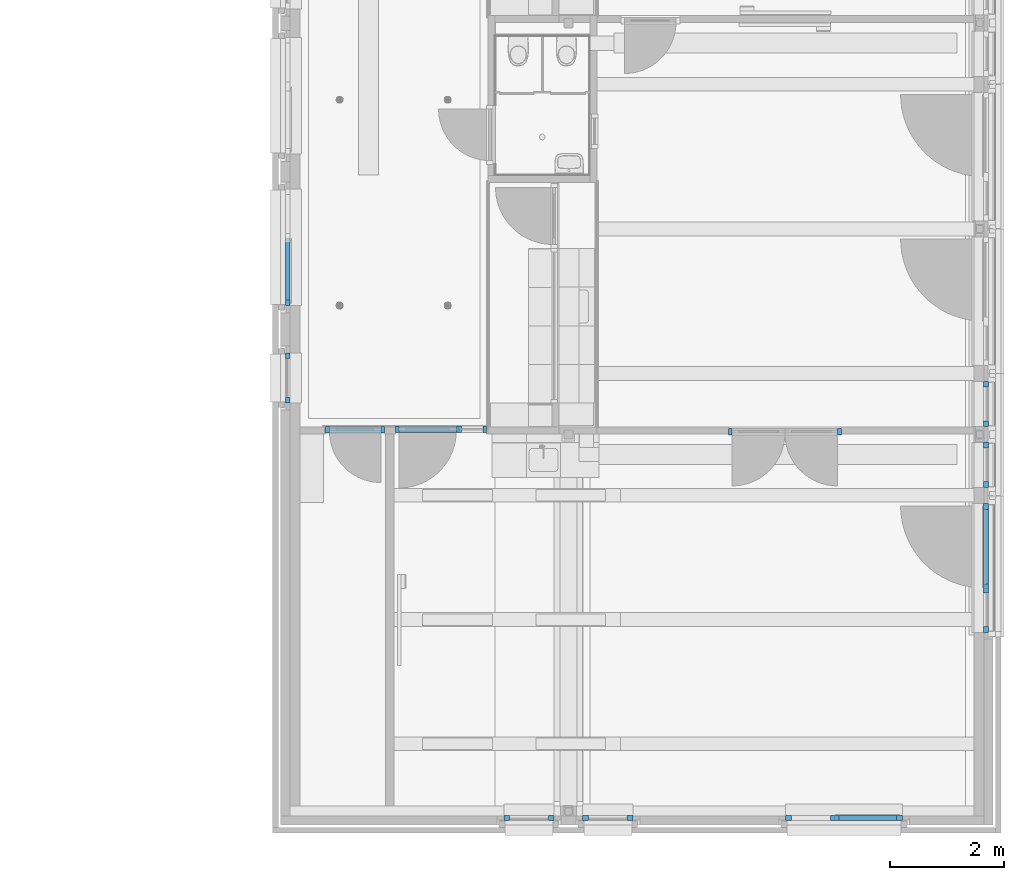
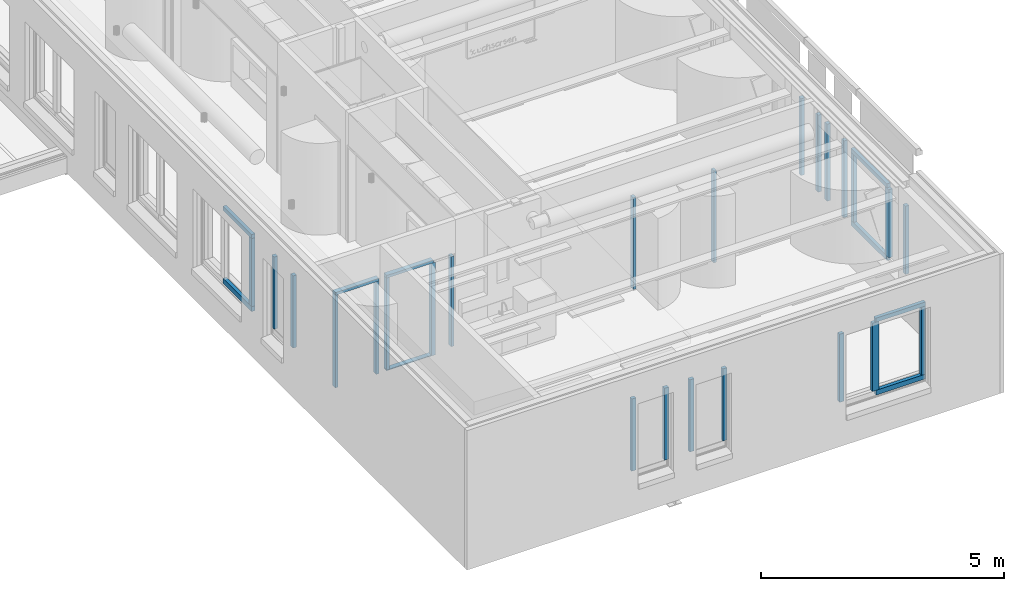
# One storey, part 6 of 128: 33 members, 11 elements without a shape of their own.
"""IFC2X3 building model written with IfcOpenShell, lengths in millimetres."""

from ifc_helpers import new_model, entity, si_unit, converted_unit, derived_unit, direction, frame, frame_2d, origin, origin_2d_with_axis, place, context, subcontext, project, spatial, rectangle, extrude, source, transform, mapped, material, type_object, type_shapes, element, aggregate, save


model = new_model("IFC2X3")

# Units and contexts
model_context = context("Model", 3, precision=0.01, world=origin(), true_north=direction((6.123031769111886e-17, 1.0)))
body_context = subcontext(model_context, "Body", "Model", "MODEL_VIEW")
ifc_project = project(units=[si_unit("LENGTHUNIT", "METRE", prefix="MILLI"), si_unit("AREAUNIT", "SQUARE_METRE"), si_unit("VOLUMEUNIT", "CUBIC_METRE"), converted_unit("PLANEANGLEUNIT", "DEGREE", entity("IfcRatioMeasure", 0.017453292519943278), si_unit("PLANEANGLEUNIT", "RADIAN"), dimensions=[0, 0, 0, 0, 0, 0, 0]), si_unit("MASSUNIT", "GRAM", prefix="KILO"), derived_unit("MASSDENSITYUNIT", [(si_unit("MASSUNIT", "GRAM", prefix="KILO"), 1), (si_unit("LENGTHUNIT", "METRE"), -3)]), derived_unit("IONCONCENTRATIONUNIT", [(si_unit("MASSUNIT", "GRAM", prefix="KILO"), 1), (si_unit("LENGTHUNIT", "METRE"), -3)]), derived_unit("MOMENTOFINERTIAUNIT", [(si_unit("LENGTHUNIT", "METRE"), 4)]), si_unit("TIMEUNIT", "SECOND"), si_unit("FREQUENCYUNIT", "HERTZ"), si_unit("THERMODYNAMICTEMPERATUREUNIT", "DEGREE_CELSIUS"), derived_unit("THERMALTRANSMITTANCEUNIT", [(si_unit("MASSUNIT", "GRAM", prefix="KILO"), 1), (si_unit("THERMODYNAMICTEMPERATUREUNIT", "KELVIN"), -1), (si_unit("TIMEUNIT", "SECOND"), -3)]), derived_unit("THERMALCONDUCTANCEUNIT", [(si_unit("MASSUNIT", "GRAM", prefix="KILO"), 1), (si_unit("THERMODYNAMICTEMPERATUREUNIT", "KELVIN"), -1), (si_unit("TIMEUNIT", "SECOND"), -3), (si_unit("LENGTHUNIT", "METRE"), 1)]), derived_unit("VOLUMETRICFLOWRATEUNIT", [(si_unit("LENGTHUNIT", "METRE"), 3), (si_unit("TIMEUNIT", "SECOND"), -1)]), derived_unit("MASSFLOWRATEUNIT", [(si_unit("MASSUNIT", "GRAM", prefix="KILO"), 1), (si_unit("TIMEUNIT", "SECOND"), -1)]), derived_unit("ROTATIONALFREQUENCYUNIT", [(si_unit("TIMEUNIT", "SECOND"), -1)]), si_unit("ELECTRICCURRENTUNIT", "AMPERE"), si_unit("ELECTRICVOLTAGEUNIT", "VOLT"), si_unit("POWERUNIT", "WATT"), si_unit("FORCEUNIT", "NEWTON", prefix="KILO"), si_unit("ILLUMINANCEUNIT", "LUX"), si_unit("LUMINOUSFLUXUNIT", "LUMEN"), si_unit("LUMINOUSINTENSITYUNIT", "CANDELA"), derived_unit("USERDEFINED", [(si_unit("MASSUNIT", "GRAM", prefix="KILO"), -1), (si_unit("LENGTHUNIT", "METRE"), -2), (si_unit("TIMEUNIT", "SECOND"), 3), (si_unit("LUMINOUSFLUXUNIT", "LUMEN"), 1)]), derived_unit("USERDEFINED", [(si_unit("MASSUNIT", "GRAM", prefix="KILO"), 1), (si_unit("TIMEUNIT", "SECOND"), -3), (si_unit("LENGTHUNIT", "METRE"), 3), (si_unit("ELECTRICCURRENTUNIT", "AMPERE"), -2)]), derived_unit("SOUNDPOWERUNIT", [(si_unit("MASSUNIT", "GRAM", prefix="KILO"), 1), (si_unit("TIMEUNIT", "SECOND"), -3), (si_unit("LENGTHUNIT", "METRE"), 2)]), derived_unit("SOUNDPRESSUREUNIT", [(si_unit("MASSUNIT", "GRAM", prefix="KILO"), 1), (si_unit("LENGTHUNIT", "METRE"), -1), (si_unit("TIMEUNIT", "SECOND"), -2)]), derived_unit("LINEARVELOCITYUNIT", [(si_unit("LENGTHUNIT", "METRE"), 1), (si_unit("TIMEUNIT", "SECOND"), -1)]), si_unit("PRESSUREUNIT", "PASCAL"), derived_unit("USERDEFINED", [(si_unit("MASSUNIT", "GRAM", prefix="KILO"), 1), (si_unit("LENGTHUNIT", "METRE"), -2), (si_unit("TIMEUNIT", "SECOND"), -2)]), derived_unit("LINEARFORCEUNIT", [(si_unit("MASSUNIT", "GRAM", prefix="KILO"), 1), (si_unit("TIMEUNIT", "SECOND"), -2)]), derived_unit("PLANARFORCEUNIT", [(si_unit("MASSUNIT", "GRAM", prefix="KILO"), 1), (si_unit("LENGTHUNIT", "METRE"), -1), (si_unit("TIMEUNIT", "SECOND"), -2)]), derived_unit("SPECIFICHEATCAPACITYUNIT", [(si_unit("THERMODYNAMICTEMPERATUREUNIT", "KELVIN"), -1), (si_unit("LENGTHUNIT", "METRE"), 2), (si_unit("TIMEUNIT", "SECOND"), -2)]), derived_unit("HEATINGVALUEUNIT", [(si_unit("LENGTHUNIT", "METRE"), 2), (si_unit("TIMEUNIT", "SECOND"), -2)]), derived_unit("VAPORPERMEABILITYUNIT", [(si_unit("LENGTHUNIT", "METRE"), -1), (si_unit("TIMEUNIT", "SECOND"), 1)]), derived_unit("DYNAMICVISCOSITYUNIT", [(si_unit("MASSUNIT", "GRAM", prefix="KILO"), 1), (si_unit("TIMEUNIT", "SECOND"), -1), (si_unit("LENGTHUNIT", "METRE"), -1)]), derived_unit("THERMALEXPANSIONCOEFFICIENTUNIT", [(si_unit("THERMODYNAMICTEMPERATUREUNIT", "KELVIN"), -1)]), derived_unit("MODULUSOFELASTICITYUNIT", [(si_unit("MASSUNIT", "GRAM", prefix="KILO"), 1), (si_unit("LENGTHUNIT", "METRE"), -1), (si_unit("TIMEUNIT", "SECOND"), -2)]), derived_unit("ISOTHERMALMOISTURECAPACITYUNIT", [(si_unit("LENGTHUNIT", "METRE"), 3), (si_unit("MASSUNIT", "GRAM", prefix="KILO"), -1)]), derived_unit("MOISTUREDIFFUSIVITYUNIT", [(si_unit("TIMEUNIT", "SECOND"), -1), (si_unit("LENGTHUNIT", "METRE"), 2)])], contexts=[model_context])

# Site, building, storey
site_placement = place(None, frame((0.0, 300.0, 0.0)))
site = spatial("IfcSite", under=ifc_project, at=site_placement, Name="<Kadastrale nummers>", CompositionType="ELEMENT")
building_placement = place(site_placement, origin())
building = spatial("IfcBuilding", under=site, at=building_placement, CompositionType="ELEMENT")
storey_placement = place(building_placement, frame((0.0, 0.0, 3560.0000331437)))
storey = spatial("IfcBuildingStorey", under=building, at=storey_placement, Name="01 eerste verdieping", CompositionType="ELEMENT", Elevation=3560.0000331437)

# Curtain wall, members
curtain_wall_type_1 = type_object("IfcCurtainWallType", Name="Curtain Wall:Merk H16", PredefinedType="NOTDEFINED")
curtain_wall_1_placement = place(storey_placement, frame((0.0, 0.0, -3560.0000331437)))
curtain_wall_1 = element("IfcCurtainWall", 1, at=curtain_wall_1_placement, inside=storey, type_object=curtain_wall_type_1, Name="Curtain Wall:Merk H16", ObjectType="Curtain Wall:Merk H16")
ifc_material_1 = material(Name="ISR_HPL")
member_type_1 = type_object("IfcMemberType", Name="Rectangular Mullion:31_CWM_067x114", PredefinedType="MULLION", material=ifc_material_1)
shared_shape_1 = source(origin(), body_context, "Body", "SweptSolid", [
    extrude(rectangle(XDim=113.99999999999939, YDim=67.0, at=origin_2d_with_axis()), frame((-33.5, 57.0, -2323.0), z_axis=(0.0, 0.0, 1.0), x_axis=(0.0, -1.0, 0.0)), (0.0, 0.0, 1.0), 2323.0),
])
type_shapes(member_type_1, [shared_shape_1])
member_1_placement = place(curtain_wall_1_placement, frame((38185.0, 9444.99862327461, 3650.00003501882), z_axis=(0.0, 0.0, -1.0), x_axis=(1.0, 0.0, 0.0)))
member_1 = element("IfcMember", 2, at=member_1_placement, type_object=member_type_1, material=ifc_material_1, Name="Rectangular Mullion:31_CWM_067x114", ObjectType="Rectangular Mullion:31_CWM_067x114", context=body_context, shape_type="MappedRepresentation", body=[
    mapped(shared_shape_1, transform((0.0, 0.0, 0.0), scale=1.0)),
])
member_type_2 = type_object("IfcMemberType", Name="Rectangular Mullion:31_CWM_067x114", PredefinedType="MULLION", material=ifc_material_1)
shared_shape_2 = source(origin(), body_context, "Body", "SweptSolid", [
    extrude(rectangle(XDim=113.99999999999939, YDim=67.0, at=origin_2d_with_axis()), frame((-33.5, 57.0, -2323.0), z_axis=(0.0, 0.0, 1.0), x_axis=(0.0, -1.0, 0.0)), (0.0, 0.0, 1.0), 2323.0),
])
type_shapes(member_type_2, [shared_shape_2])
member_2_placement = place(curtain_wall_1_placement, frame((37151.0, 9444.99862327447, 5973.0000331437), z_axis=(0.0, 0.0, 1.0), x_axis=(-1.0, 0.0, 0.0)))
member_2 = element("IfcMember", 3, at=member_2_placement, type_object=member_type_2, material=ifc_material_1, Name="Rectangular Mullion:31_CWM_067x114", ObjectType="Rectangular Mullion:31_CWM_067x114", context=body_context, shape_type="MappedRepresentation", body=[
    mapped(shared_shape_2, transform((0.0, 0.0, 0.0), scale=1.0)),
])
member_type_3 = type_object("IfcMemberType", Name="Rectangular Mullion:31_CWM_067x114", PredefinedType="MULLION", material=ifc_material_1)
shared_shape_3 = source(origin(), body_context, "Body", "SweptSolid", [
    extrude(rectangle(XDim=113.99999999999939, YDim=67.0, at=origin_2d_with_axis()), frame((-33.5, 57.0, -1034.0), z_axis=(0.0, 0.0, 1.0), x_axis=(0.0, -1.0, 0.0)), (0.0, 0.0, 1.0), 1033.9999999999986),
])
type_shapes(member_type_3, [shared_shape_3])
member_3_placement = place(curtain_wall_1_placement, frame((38185.0, 9444.99862327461, 6040.0000331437), z_axis=(1.0, 0.0, 0.0), x_axis=(0.0, 0.0, 1.0)))
member_3 = element("IfcMember", 4, at=member_3_placement, type_object=member_type_3, material=ifc_material_1, Name="Rectangular Mullion:31_CWM_067x114", ObjectType="Rectangular Mullion:31_CWM_067x114", context=body_context, shape_type="MappedRepresentation", body=[
    mapped(shared_shape_3, transform((0.0, 0.0, 0.0), scale=1.0)),
])
aggregate(curtain_wall_1, [member_3, member_1, member_2])

curtain_wall_type_2 = type_object("IfcCurtainWallType", Name="Curtain Wall:Merk H18", PredefinedType="NOTDEFINED")
curtain_wall_2_placement = place(storey_placement, frame((0.0, 0.0, -3560.0000331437)))
curtain_wall_2 = element("IfcCurtainWall", 5, at=curtain_wall_2_placement, inside=storey, type_object=curtain_wall_type_2, Name="Curtain Wall:Merk H18", ObjectType="Curtain Wall:Merk H18")
member_type_4 = type_object("IfcMemberType", Name="Rectangular Mullion:31_CWM_067x114", PredefinedType="MULLION", material=ifc_material_1)
shared_shape_4 = source(origin(), body_context, "Body", "SweptSolid", [
    extrude(rectangle(XDim=113.99999999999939, YDim=67.0, at=origin_2d_with_axis()), frame((-33.5, -57.0, -1112.0), z_axis=(0.0, 0.0, 1.0), x_axis=(0.0, -1.0, 0.0)), (0.0, 0.0, 1.0), 1112.0000000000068),
])
type_shapes(member_type_4, [shared_shape_4])
member_4_placement = place(curtain_wall_2_placement, frame((38371.24999999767, 9449.9986232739, 6040.0000331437), z_axis=(-1.0, 0.0, 0.0), x_axis=(0.0, 0.0, 1.0)))
member_4 = element("IfcMember", 6, at=member_4_placement, type_object=member_type_4, material=ifc_material_1, Name="Rectangular Mullion:31_CWM_067x114", ObjectType="Rectangular Mullion:31_CWM_067x114", context=body_context, shape_type="MappedRepresentation", body=[
    mapped(shared_shape_4, transform((0.0, 0.0, 0.0), scale=1.0)),
])
member_type_5 = type_object("IfcMemberType", Name="Rectangular Mullion:31_CWM_067x114", PredefinedType="MULLION", material=ifc_material_1)
shared_shape_5 = source(origin(), body_context, "Body", "SweptSolid", [
    extrude(rectangle(XDim=113.9999999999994, YDim=67.0, at=frame_2d((1.0658141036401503e-14, 0.0), x_axis=(1.0, 0.0))), frame((-33.5, -57.0, -2303.0), z_axis=(0.0, 0.0, 1.0), x_axis=(0.0, -1.0, 0.0)), (0.0, 0.0, 1.0), 2303.0),
])
type_shapes(member_type_5, [shared_shape_5])
member_5_placement = place(curtain_wall_2_placement, frame((38371.24999999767, 9449.9986232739, 3670.000035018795), z_axis=(0.0, 0.0, -1.0), x_axis=(-1.0, 0.0, 0.0)))
member_5 = element("IfcMember", 7, at=member_5_placement, type_object=member_type_5, material=ifc_material_1, Name="Rectangular Mullion:31_CWM_067x114", ObjectType="Rectangular Mullion:31_CWM_067x114", context=body_context, shape_type="MappedRepresentation", body=[
    mapped(shared_shape_5, transform((0.0, 0.0, 0.0), scale=1.0)),
])
ifc_material_2 = material(Name="ISR_Kunststof_grijs")
member_type_6 = type_object("IfcMemberType", Name="Rectangular Mullion:31_CWM_020x114", PredefinedType="MULLION", material=ifc_material_2)
shared_shape_6 = source(origin(), body_context, "Body", "SweptSolid", [
    extrude(rectangle(XDim=113.99999999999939, YDim=20.0, at=origin_2d_with_axis()), frame((-10.0, -57.0, -1067.0), z_axis=(0.0, 0.0, 1.0), x_axis=(0.0, -1.0, 0.0)), (0.0, 0.0, 1.0), 1067.0000000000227),
])
type_shapes(member_type_6, [shared_shape_6])
member_6_placement = place(curtain_wall_2_placement, frame((39438.24999999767, 9449.998623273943, 3650.0000350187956), z_axis=(1.0, 0.0, 0.0), x_axis=(0.0, 0.0, -1.0)))
member_6 = element("IfcMember", 8, at=member_6_placement, type_object=member_type_6, material=ifc_material_2, Name="Rectangular Mullion:31_CWM_020x114", ObjectType="Rectangular Mullion:31_CWM_020x114", context=body_context, shape_type="MappedRepresentation", body=[
    mapped(shared_shape_6, transform((0.0, 0.0, 0.0), scale=1.0)),
])
ifc_material_3 = material(Name="ISR_HPL Kleur hout")
member_type_7 = type_object("IfcMemberType", Name="Rectangular Mullion:31_CWM_090x114", PredefinedType="MULLION", material=ifc_material_3)
shared_shape_7 = source(origin(), body_context, "Body", "SweptSolid", [
    extrude(rectangle(XDim=113.99999999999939, YDim=90.0, at=origin_2d_with_axis()), frame((0.0, -57.0, -2323.0), z_axis=(0.0, 0.0, 1.0), x_axis=(0.0, -1.0, 0.0)), (0.0, 0.0, 1.0), 2323.0000000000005),
])
type_shapes(member_type_7, [shared_shape_7])
member_7_placement = place(curtain_wall_2_placement, frame((39483.24999999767, 9449.998623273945, 3650.0000350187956), z_axis=(0.0, 0.0, -1.0), x_axis=(-1.0, 0.0, 0.0)))
member_7 = element("IfcMember", 9, at=member_7_placement, type_object=member_type_7, material=ifc_material_3, Name="Rectangular Mullion:31_CWM_090x114", ObjectType="Rectangular Mullion:31_CWM_090x114", context=body_context, shape_type="MappedRepresentation", body=[
    mapped(shared_shape_7, transform((0.0, 0.0, 0.0), scale=1.0)),
])

curtain_wall_type_3 = type_object("IfcCurtainWallType", Name="Curtain Wall:Merk H07", PredefinedType="NOTDEFINED")
curtain_wall_3_placement = place(storey_placement, frame((0.0, 0.0, -3560.0000331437)))
curtain_wall_3 = element("IfcCurtainWall", 10, at=curtain_wall_3_placement, inside=storey, type_object=curtain_wall_type_3, Name="Curtain Wall:Merk H07", ObjectType="Curtain Wall:Merk H07")
member_type_8 = type_object("IfcMemberType", Name="Rectangular Mullion:31_CWM_067x114", PredefinedType="MULLION", material=ifc_material_1)
shared_shape_8 = source(origin(), body_context, "Body", "SweptSolid", [
    extrude(rectangle(XDim=113.99999999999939, YDim=67.0, at=origin_2d_with_axis()), frame((-33.5, 57.0, -2303.0), z_axis=(0.0, 0.0, 1.0), x_axis=(0.0, -1.0, 0.0)), (0.0, 0.0, 1.0), 2303.0),
])
type_shapes(member_type_8, [shared_shape_8])
member_8_placement = place(curtain_wall_3_placement, frame((46180.0, 9408.99862327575, 3670.0000350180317), z_axis=(0.0, 0.0, -1.0), x_axis=(1.0, 0.0, 0.0)))
member_8 = element("IfcMember", 11, at=member_8_placement, type_object=member_type_8, material=ifc_material_1, Name="Rectangular Mullion:31_CWM_067x114", ObjectType="Rectangular Mullion:31_CWM_067x114", context=body_context, shape_type="MappedRepresentation", body=[
    mapped(shared_shape_8, transform((0.0, 0.0, 0.0), scale=1.0)),
])
member_type_9 = type_object("IfcMemberType", Name="Rectangular Mullion:31_CWM_067x114", PredefinedType="MULLION", material=ifc_material_1)
shared_shape_9 = source(origin(), body_context, "Body", "SweptSolid", [
    extrude(rectangle(XDim=113.99999999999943, YDim=67.0, at=origin_2d_with_axis()), frame((-33.5, 57.0, -2303.0), z_axis=(0.0, 0.0, 1.0), x_axis=(0.0, -1.0, 0.0)), (0.0, 0.0, 1.0), 2303.0000000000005),
])
type_shapes(member_type_9, [shared_shape_9])
member_9_placement = place(curtain_wall_3_placement, frame((44200.0, 9408.998623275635, 5973.0000331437), z_axis=(0.0, 0.0, 1.0), x_axis=(-1.0, 0.0, 0.0)))
member_9 = element("IfcMember", 12, at=member_9_placement, type_object=member_type_9, material=ifc_material_1, Name="Rectangular Mullion:31_CWM_067x114", ObjectType="Rectangular Mullion:31_CWM_067x114", context=body_context, shape_type="MappedRepresentation", body=[
    mapped(shared_shape_9, transform((0.0, 0.0, 0.0), scale=1.0)),
])
aggregate(curtain_wall_3, [member_8, member_9])

# Member
member_type_10 = type_object("IfcMemberType", Name="Rectangular Mullion:31_CWM_067x114", PredefinedType="MULLION", material=ifc_material_1)
shared_shape_10 = source(origin(), body_context, "Body", "SweptSolid", [
    extrude(rectangle(XDim=113.99999999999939, YDim=67.0, at=origin_2d_with_axis()), frame((-33.5, -57.0, -2256.0), z_axis=(0.0, 0.0, 1.0), x_axis=(0.0, -1.0, 0.0)), (0.0, 0.0, 1.0), 2256.0000000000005),
])
type_shapes(member_type_10, [shared_shape_10])
member_10_placement = place(curtain_wall_2_placement, frame((39971.249999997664, 9449.998623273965, 5973.0000331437)))
member_10 = element("IfcMember", 13, at=member_10_placement, type_object=member_type_10, material=ifc_material_1, Name="Rectangular Mullion:31_CWM_067x114", ObjectType="Rectangular Mullion:31_CWM_067x114", context=body_context, shape_type="MappedRepresentation", body=[
    mapped(shared_shape_10, transform((0.0, 0.0, 0.0), scale=1.0)),
])

aggregate(curtain_wall_2, [member_4, member_5, member_10, member_6, member_7])

# Curtain wall, member
curtain_wall_type_4 = type_object("IfcCurtainWallType", Name="Curtain Wall:K_28", PredefinedType="NOTDEFINED")
curtain_wall_4_placement = place(storey_placement, frame((0.0, 0.0, -3560.0000331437)))
curtain_wall_4 = element("IfcCurtainWall", 14, at=curtain_wall_4_placement, inside=storey, type_object=curtain_wall_type_4, Name="Curtain Wall:K_28", ObjectType="Curtain Wall:K_28")
ifc_material_4 = material(Name="ISR_Kunststof_RAL7006")
member_type_11 = type_object("IfcMemberType", Name="Rectangular Mullion:100x83 Gealan Kubus", PredefinedType="MULLION", material=ifc_material_4)
shared_shape_11 = source(origin(), body_context, "Body", "SweptSolid", [
    extrude(rectangle(XDim=83.0, YDim=100.0, at=origin_2d_with_axis()), frame((-50.0, 41.5, -1810.0), z_axis=(0.0, 0.0, 1.0), x_axis=(0.0, -1.0, 0.0)), (0.0, 0.0, 1.0), 1810.0),
])
type_shapes(member_type_11, [shared_shape_11])
member_11_placement = place(curtain_wall_4_placement, frame((36532.0, 9850.0, 4580.000035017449), z_axis=(0.0, 0.0, -1.0), x_axis=(0.0, -1.0, 0.0)))
member_11 = element("IfcMember", 15, at=member_11_placement, type_object=member_type_11, material=ifc_material_4, Name="Rectangular Mullion:100x83 Gealan Kubus", ObjectType="Rectangular Mullion:100x83 Gealan Kubus", context=body_context, shape_type="MappedRepresentation", body=[
    mapped(shared_shape_11, transform((0.0, 0.0, 0.0), scale=1.0)),
])

curtain_wall_5_placement = place(storey_placement, frame((0.0, 0.0, -3560.0000331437)))
curtain_wall_5 = element("IfcCurtainWall", 16, at=curtain_wall_5_placement, inside=storey, type_object=curtain_wall_type_4, Name="Curtain Wall:K_28", ObjectType="Curtain Wall:K_28")
member_12_placement = place(curtain_wall_5_placement, frame((41150.0, 2631.99862327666, 4580.000035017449), z_axis=(0.0, 0.0, -1.0), x_axis=(1.0, 0.0, 0.0)))
member_12 = element("IfcMember", 17, at=member_12_placement, type_object=member_type_11, material=ifc_material_4, Name="Rectangular Mullion:100x83 Gealan Kubus", ObjectType="Rectangular Mullion:100x83 Gealan Kubus", context=body_context, shape_type="MappedRepresentation", body=[
    mapped(shared_shape_11, transform((0.0, 0.0, 0.0), scale=1.0)),
])

curtain_wall_6_placement = place(storey_placement, frame((0.0, 0.0, -3560.0000331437)))
curtain_wall_6 = element("IfcCurtainWall", 18, at=curtain_wall_6_placement, inside=storey, type_object=curtain_wall_type_4, Name="Curtain Wall:K_28", ObjectType="Curtain Wall:K_28")
member_13_placement = place(curtain_wall_6_placement, frame((42530.0, 2631.998623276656, 4580.000035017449), z_axis=(0.0, 0.0, -1.0), x_axis=(1.0, 0.0, 0.0)))
member_13 = element("IfcMember", 19, at=member_13_placement, type_object=member_type_11, material=ifc_material_4, Name="Rectangular Mullion:100x83 Gealan Kubus", ObjectType="Rectangular Mullion:100x83 Gealan Kubus", context=body_context, shape_type="MappedRepresentation", body=[
    mapped(shared_shape_11, transform((0.0, 0.0, 0.0), scale=1.0)),
])

# Member
member_type_12 = type_object("IfcMemberType", Name="Rectangular Mullion:100x83 Gealan Kubus", PredefinedType="MULLION", material=ifc_material_4)
shared_shape_12 = source(origin(), body_context, "Body", "SweptSolid", [
    extrude(rectangle(XDim=83.0, YDim=100.0, at=origin_2d_with_axis()), frame((-50.0, 41.5, -1810.0), z_axis=(0.0, 0.0, 1.0), x_axis=(0.0, -1.0, 0.0)), (0.0, 0.0, 1.0), 1810.0),
])
type_shapes(member_type_12, [shared_shape_12])
member_14_placement = place(curtain_wall_4_placement, frame((36532.0, 10730.0, 6390.00003501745), z_axis=(0.0, 0.0, 1.0), x_axis=(0.0, 1.0, 0.0)))
member_14 = element("IfcMember", 20, at=member_14_placement, type_object=member_type_12, material=ifc_material_4, Name="Rectangular Mullion:100x83 Gealan Kubus", ObjectType="Rectangular Mullion:100x83 Gealan Kubus", context=body_context, shape_type="MappedRepresentation", body=[
    mapped(shared_shape_12, transform((0.0, 0.0, 0.0), scale=1.0)),
])

aggregate(curtain_wall_4, [member_11, member_14])

member_15_placement = place(curtain_wall_5_placement, frame((40270.0, 2631.9986232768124, 6390.00003501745), z_axis=(0.0, 0.0, 1.0), x_axis=(-1.0, 0.0, 0.0)))
member_15 = element("IfcMember", 21, at=member_15_placement, type_object=member_type_12, material=ifc_material_4, Name="Rectangular Mullion:100x83 Gealan Kubus", ObjectType="Rectangular Mullion:100x83 Gealan Kubus", context=body_context, shape_type="MappedRepresentation", body=[
    mapped(shared_shape_12, transform((0.0, 0.0, 0.0), scale=1.0)),
])

aggregate(curtain_wall_5, [member_12, member_15])

member_16_placement = place(curtain_wall_6_placement, frame((41650.0, 2631.998623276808, 6390.00003501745), z_axis=(0.0, 0.0, 1.0), x_axis=(-1.0, 0.0, 0.0)))
member_16 = element("IfcMember", 22, at=member_16_placement, type_object=member_type_12, material=ifc_material_4, Name="Rectangular Mullion:100x83 Gealan Kubus", ObjectType="Rectangular Mullion:100x83 Gealan Kubus", context=body_context, shape_type="MappedRepresentation", body=[
    mapped(shared_shape_12, transform((0.0, 0.0, 0.0), scale=1.0)),
])

aggregate(curtain_wall_6, [member_13, member_16])

# Curtain wall, member
curtain_wall_type_5 = type_object("IfcCurtainWallType", Name="Curtain Wall:K_29", PredefinedType="NOTDEFINED")
curtain_wall_7_placement = place(storey_placement, frame((0.0, 0.0, -3560.0000331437)))
curtain_wall_7 = element("IfcCurtainWall", 23, at=curtain_wall_7_placement, inside=storey, type_object=curtain_wall_type_5, Name="Curtain Wall:K_29", ObjectType="Curtain Wall:K_29")
member_type_13 = type_object("IfcMemberType", Name="Rectangular Mullion:100x83 Gealan Kubus", PredefinedType="MULLION", material=ifc_material_4)
shared_shape_13 = source(origin(), body_context, "Body", "SweptSolid", [
    extrude(rectangle(XDim=83.0, YDim=100.0, at=origin_2d_with_axis()), frame((-50.0, 41.5, -1929.9999649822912), z_axis=(0.0, 0.0, 1.0), x_axis=(0.0, -1.0, 0.0)), (0.0, 0.0, 1.0), 1929.9999649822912),
])
type_shapes(member_type_13, [shared_shape_13])
member_17_placement = place(curtain_wall_7_placement, frame((48668.0, 10230.0, 4460.000035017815), z_axis=(0.0, 0.0, -1.0), x_axis=(0.0, 1.0, 0.0)))
member_17 = element("IfcMember", 24, at=member_17_placement, type_object=member_type_13, material=ifc_material_4, Name="Rectangular Mullion:100x83 Gealan Kubus", ObjectType="Rectangular Mullion:100x83 Gealan Kubus", context=body_context, shape_type="MappedRepresentation", body=[
    mapped(shared_shape_13, transform((0.0, 0.0, 0.0), scale=1.0)),
])

curtain_wall_8_placement = place(storey_placement, frame((0.0, 0.0, -3560.0000331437)))
curtain_wall_8 = element("IfcCurtainWall", 25, at=curtain_wall_8_placement, inside=storey, type_object=curtain_wall_type_5, Name="Curtain Wall:K_29", ObjectType="Curtain Wall:K_29")
member_18_placement = place(curtain_wall_8_placement, frame((48668.0, 9168.0, 4460.000035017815), z_axis=(0.0, 0.0, -1.0), x_axis=(0.0, 1.0, 0.0)))
member_18 = element("IfcMember", 26, at=member_18_placement, type_object=member_type_13, material=ifc_material_4, Name="Rectangular Mullion:100x83 Gealan Kubus", ObjectType="Rectangular Mullion:100x83 Gealan Kubus", context=body_context, shape_type="MappedRepresentation", body=[
    mapped(shared_shape_13, transform((0.0, 0.0, 0.0), scale=1.0)),
])

# Member
member_type_14 = type_object("IfcMemberType", Name="Rectangular Mullion:100x83 Gealan Kubus", PredefinedType="MULLION", material=ifc_material_4)
shared_shape_14 = source(origin(), body_context, "Body", "SweptSolid", [
    extrude(rectangle(XDim=83.0, YDim=100.0, at=origin_2d_with_axis()), frame((-50.0, 41.5, -1929.9999649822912), z_axis=(0.0, 0.0, 1.0), x_axis=(0.0, -1.0, 0.0)), (0.0, 0.0, 1.0), 1929.9999649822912),
])
type_shapes(member_type_14, [shared_shape_14])
member_19_placement = place(curtain_wall_7_placement, frame((48668.0, 9440.0, 6390.0), z_axis=(0.0, 0.0, 1.0), x_axis=(0.0, -1.0, 0.0)))
member_19 = element("IfcMember", 27, at=member_19_placement, type_object=member_type_14, material=ifc_material_4, Name="Rectangular Mullion:100x83 Gealan Kubus", ObjectType="Rectangular Mullion:100x83 Gealan Kubus", context=body_context, shape_type="MappedRepresentation", body=[
    mapped(shared_shape_14, transform((0.0, 0.0, 0.0), scale=1.0)),
])

aggregate(curtain_wall_7, [member_17, member_19])

member_20_placement = place(curtain_wall_8_placement, frame((48668.0, 8378.0, 6390.0), z_axis=(0.0, 0.0, 1.0), x_axis=(0.0, -1.0, 0.0)))
member_20 = element("IfcMember", 28, at=member_20_placement, type_object=member_type_14, material=ifc_material_4, Name="Rectangular Mullion:100x83 Gealan Kubus", ObjectType="Rectangular Mullion:100x83 Gealan Kubus", context=body_context, shape_type="MappedRepresentation", body=[
    mapped(shared_shape_14, transform((0.0, 0.0, 0.0), scale=1.0)),
])

aggregate(curtain_wall_8, [member_18, member_20])

# Curtain wall, members
curtain_wall_type_6 = type_object("IfcCurtainWallType", Name="Curtain Wall:K_22", PredefinedType="NOTDEFINED")
curtain_wall_9_placement = place(storey_placement, frame((0.0, 0.0, -3560.0000331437)))
curtain_wall_9 = element("IfcCurtainWall", 29, at=curtain_wall_9_placement, inside=storey, type_object=curtain_wall_type_6, Name="Curtain Wall:K_22", ObjectType="Curtain Wall:K_22")
member_type_15 = type_object("IfcMemberType", Name="Rectangular Mullion:100x83 Gealan Kubus", PredefinedType="MULLION", material=ifc_material_4)
shared_shape_15 = source(origin(), body_context, "Body", "SweptSolid", [
    extrude(rectangle(XDim=83.0, YDim=100.0, at=origin_2d_with_axis()), frame((-50.0, 41.5, -1483.0), z_axis=(0.0, 0.0, 1.0), x_axis=(0.0, -1.0, 0.0)), (0.0, 0.0, 1.0), 1483.0000000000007),
])
type_shapes(member_type_15, [shared_shape_15])
member_21_placement = place(curtain_wall_9_placement, frame((48668.0, 8090.0, 6390.0), z_axis=(0.0, 1.0, 0.0), x_axis=(0.0, 0.0, 1.0)))
member_21 = element("IfcMember", 30, at=member_21_placement, type_object=member_type_15, material=ifc_material_4, Name="Rectangular Mullion:100x83 Gealan Kubus", ObjectType="Rectangular Mullion:100x83 Gealan Kubus", context=body_context, shape_type="MappedRepresentation", body=[
    mapped(shared_shape_15, transform((0.0, 0.0, 0.0), scale=1.0)),
])
member_type_16 = type_object("IfcMemberType", Name="Rectangular Mullion:100x83 Gealan Kubus", PredefinedType="MULLION", material=ifc_material_4)
shared_shape_16 = source(origin(), body_context, "Body", "SweptSolid", [
    extrude(rectangle(XDim=82.99999999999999, YDim=100.0, at=origin_2d_with_axis()), frame((-50.0, 41.49999999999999, -1709.9999649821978), z_axis=(0.0, 0.0, 1.0), x_axis=(0.0, -1.0, 0.0)), (0.0, 0.0, 1.0), 1709.9999649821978),
])
type_shapes(member_type_16, [shared_shape_16])
member_22_placement = place(curtain_wall_9_placement, frame((48668.0, 8090.0, 4580.0000331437), z_axis=(0.0, 0.0, -1.0), x_axis=(0.0, 1.0, 0.0)))
member_22 = element("IfcMember", 31, at=member_22_placement, type_object=member_type_16, material=ifc_material_4, Name="Rectangular Mullion:100x83 Gealan Kubus", ObjectType="Rectangular Mullion:100x83 Gealan Kubus", context=body_context, shape_type="MappedRepresentation", body=[
    mapped(shared_shape_16, transform((0.0, 0.0, 0.0), scale=1.0)),
])

# Curtain wall, member
curtain_wall_type_7 = type_object("IfcCurtainWallType", Name="Curtain Wall:K_24", PredefinedType="NOTDEFINED")
curtain_wall_10_placement = place(storey_placement, frame((0.0, 0.0, -3560.0000331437)))
curtain_wall_10 = element("IfcCurtainWall", 32, at=curtain_wall_10_placement, inside=storey, type_object=curtain_wall_type_7, Name="Curtain Wall:K_24", ObjectType="Curtain Wall:K_24")
member_23_placement = place(curtain_wall_10_placement, frame((36531.998623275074, 11560.0, 4580.000035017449), z_axis=(0.0, 0.0, -1.0), x_axis=(0.0, -1.0, 0.0)))
member_23 = element("IfcMember", 33, at=member_23_placement, type_object=member_type_16, material=ifc_material_4, Name="Rectangular Mullion:100x83 Gealan Kubus", ObjectType="Rectangular Mullion:100x83 Gealan Kubus", context=body_context, shape_type="MappedRepresentation", body=[
    mapped(shared_shape_16, transform((0.0, 0.0, 0.0), scale=1.0)),
])

curtain_wall_11_placement = place(storey_placement, frame((0.0, 0.0, -3560.0000331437)))
curtain_wall_11 = element("IfcCurtainWall", 34, at=curtain_wall_11_placement, inside=storey, type_object=curtain_wall_type_7, Name="Curtain Wall:K_24", ObjectType="Curtain Wall:K_24")
member_24_placement = place(curtain_wall_11_placement, frame((47245.0, 2631.9986232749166, 4580.000035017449), z_axis=(0.0, 0.0, -1.0), x_axis=(1.0, 0.0, 0.0)))
member_24 = element("IfcMember", 35, at=member_24_placement, type_object=member_type_16, material=ifc_material_4, Name="Rectangular Mullion:100x83 Gealan Kubus", ObjectType="Rectangular Mullion:100x83 Gealan Kubus", context=body_context, shape_type="MappedRepresentation", body=[
    mapped(shared_shape_16, transform((0.0, 0.0, 0.0), scale=1.0)),
])

# Member
member_type_17 = type_object("IfcMemberType", Name="Rectangular Mullion:100x83 Gealan Kubus", PredefinedType="MULLION", material=ifc_material_4)
shared_shape_17 = source(origin(), body_context, "Body", "SweptSolid", [
    extrude(rectangle(XDim=83.00000000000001, YDim=100.0, at=origin_2d_with_axis()), frame((-50.0, 41.50000000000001, -1709.9999649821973), z_axis=(0.0, 0.0, 1.0), x_axis=(0.0, -1.0, 0.0)), (0.0, 0.0, 1.0), 1709.9999649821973),
])
type_shapes(member_type_17, [shared_shape_17])
member_25_placement = place(curtain_wall_9_placement, frame((48668.0, 5840.0, 6290.0), z_axis=(0.0, 0.0, 1.0), x_axis=(0.0, -1.0, 0.0)))
member_25 = element("IfcMember", 36, at=member_25_placement, type_object=member_type_17, material=ifc_material_4, Name="Rectangular Mullion:100x83 Gealan Kubus", ObjectType="Rectangular Mullion:100x83 Gealan Kubus", context=body_context, shape_type="MappedRepresentation", body=[
    mapped(shared_shape_17, transform((0.0, 0.0, 0.0), scale=1.0)),
])

member_26_placement = place(curtain_wall_11_placement, frame((45205.0, 2631.9986232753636, 6290.000035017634), z_axis=(0.0, 0.0, 1.0), x_axis=(-1.0, 0.0, 0.0)))
member_26 = element("IfcMember", 37, at=member_26_placement, type_object=member_type_17, material=ifc_material_4, Name="Rectangular Mullion:100x83 Gealan Kubus", ObjectType="Rectangular Mullion:100x83 Gealan Kubus", context=body_context, shape_type="MappedRepresentation", body=[
    mapped(shared_shape_17, transform((0.0, 0.0, 0.0), scale=1.0)),
])

member_type_18 = type_object("IfcMemberType", Name="Rectangular Mullion:120x83 Gealan Kubus", PredefinedType="MULLION", material=ifc_material_4)
shared_shape_18 = source(origin(), body_context, "Body", "SweptSolid", [
    extrude(rectangle(XDim=83.00000000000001, YDim=120.0, at=origin_2d_with_axis()), frame((-60.0, 41.50000000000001, -1483.0), z_axis=(0.0, 0.0, 1.0), x_axis=(0.0, -1.0, 0.0)), (0.0, 0.0, 1.0), 1483.0000000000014),
])
type_shapes(member_type_18, [shared_shape_18])
member_27_placement = place(curtain_wall_9_placement, frame((48668.0, 6607.0, 4460.000035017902), z_axis=(0.0, -1.0, 0.0), x_axis=(0.0, 0.0, -1.0)))
member_27 = element("IfcMember", 38, at=member_27_placement, type_object=member_type_18, material=ifc_material_4, Name="Rectangular Mullion:120x83 Gealan Kubus", ObjectType="Rectangular Mullion:120x83 Gealan Kubus", context=body_context, shape_type="MappedRepresentation", body=[
    mapped(shared_shape_18, transform((0.0, 0.0, 0.0), scale=1.0)),
])

member_type_19 = type_object("IfcMemberType", Name="Rectangular Mullion:154x83 Gealan Kubus", PredefinedType="MULLION", material=ifc_material_4)
shared_shape_19 = source(origin(), body_context, "Body", "SweptSolid", [
    extrude(rectangle(XDim=83.00000000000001, YDim=154.0, at=origin_2d_with_axis()), frame((0.0, 41.50000000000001, -1710.0), z_axis=(0.0, 0.0, 1.0), x_axis=(0.0, -1.0, 0.0)), (0.0, 0.0, 1.0), 1710.0000000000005),
])
type_shapes(member_type_19, [shared_shape_19])
member_28_placement = place(curtain_wall_9_placement, frame((48668.0, 6607.0, 4580.0000331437), z_axis=(0.0, 0.0, -1.0), x_axis=(0.0, 1.0, 0.0)))
member_28 = element("IfcMember", 39, at=member_28_placement, type_object=member_type_19, material=ifc_material_4, Name="Rectangular Mullion:154x83 Gealan Kubus", ObjectType="Rectangular Mullion:154x83 Gealan Kubus", context=body_context, shape_type="MappedRepresentation", body=[
    mapped(shared_shape_19, transform((0.0, 0.0, 0.0), scale=1.0)),
])

aggregate(curtain_wall_9, [member_21, member_22, member_25, member_27, member_28])

member_29_placement = place(curtain_wall_11_placement, frame((46062.0, 2631.9986232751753, 4580.000035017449), z_axis=(0.0, 0.0, -1.0), x_axis=(1.0, 0.0, 0.0)))
member_29 = element("IfcMember", 40, at=member_29_placement, type_object=member_type_19, material=ifc_material_4, Name="Rectangular Mullion:154x83 Gealan Kubus", ObjectType="Rectangular Mullion:154x83 Gealan Kubus", context=body_context, shape_type="MappedRepresentation", body=[
    mapped(shared_shape_19, transform((0.0, 0.0, 0.0), scale=1.0)),
])

member_type_20 = type_object("IfcMemberType", Name="Rectangular Mullion:100x83 Gealan Kubus", PredefinedType="MULLION", material=ifc_material_4)
shared_shape_20 = source(origin(), body_context, "Body", "SweptSolid", [
    extrude(rectangle(XDim=83.0, YDim=100.0, at=origin_2d_with_axis()), frame((-50.0, 41.5, -1183.0), z_axis=(0.0, 0.0, 1.0), x_axis=(0.0, -1.0, 0.0)), (0.0, 0.0, 1.0), 1183.0000000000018),
])
type_shapes(member_type_20, [shared_shape_20])
member_30_placement = place(curtain_wall_10_placement, frame((36531.998623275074, 11560.0, 6390.000035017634), z_axis=(0.0, -1.0, 0.0), x_axis=(0.0, 0.0, 1.0)))
member_30 = element("IfcMember", 41, at=member_30_placement, type_object=member_type_20, material=ifc_material_4, Name="Rectangular Mullion:100x83 Gealan Kubus", ObjectType="Rectangular Mullion:100x83 Gealan Kubus", context=body_context, shape_type="MappedRepresentation", body=[
    mapped(shared_shape_20, transform((0.0, 0.0, 0.0), scale=1.0)),
])

member_31_placement = place(curtain_wall_11_placement, frame((47245.0, 2631.9986232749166, 6390.000035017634), z_axis=(1.0, 0.0, 0.0), x_axis=(0.0, 0.0, 1.0)))
member_31 = element("IfcMember", 42, at=member_31_placement, type_object=member_type_20, material=ifc_material_4, Name="Rectangular Mullion:100x83 Gealan Kubus", ObjectType="Rectangular Mullion:100x83 Gealan Kubus", context=body_context, shape_type="MappedRepresentation", body=[
    mapped(shared_shape_20, transform((0.0, 0.0, 0.0), scale=1.0)),
])

member_type_21 = type_object("IfcMemberType", Name="Rectangular Mullion:120x83 Gealan Kubus", PredefinedType="MULLION", material=ifc_material_4)
shared_shape_21 = source(origin(), body_context, "Body", "SweptSolid", [
    extrude(rectangle(XDim=83.00000000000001, YDim=120.0, at=origin_2d_with_axis()), frame((-60.0, 41.50000000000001, -1183.0), z_axis=(0.0, 0.0, 1.0), x_axis=(0.0, -1.0, 0.0)), (0.0, 0.0, 1.0), 1183.0000000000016),
])
type_shapes(member_type_21, [shared_shape_21])
member_32_placement = place(curtain_wall_10_placement, frame((36531.998623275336, 12743.0, 4460.000035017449), z_axis=(0.0, 1.0, 0.0), x_axis=(0.0, 0.0, -1.0)))
member_32 = element("IfcMember", 43, at=member_32_placement, type_object=member_type_21, material=ifc_material_4, Name="Rectangular Mullion:120x83 Gealan Kubus", ObjectType="Rectangular Mullion:120x83 Gealan Kubus", context=body_context, shape_type="MappedRepresentation", body=[
    mapped(shared_shape_21, transform((0.0, 0.0, 0.0), scale=1.0)),
])

aggregate(curtain_wall_10, [member_30, member_23, member_32])

member_33_placement = place(curtain_wall_11_placement, frame((46062.0, 2631.9986232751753, 4460.000035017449), z_axis=(-1.0, 0.0, 0.0), x_axis=(0.0, 0.0, -1.0)))
member_33 = element("IfcMember", 44, at=member_33_placement, type_object=member_type_21, material=ifc_material_4, Name="Rectangular Mullion:120x83 Gealan Kubus", ObjectType="Rectangular Mullion:120x83 Gealan Kubus", context=body_context, shape_type="MappedRepresentation", body=[
    mapped(shared_shape_21, transform((0.0, 0.0, 0.0), scale=1.0)),
])

aggregate(curtain_wall_11, [member_31, member_24, member_26, member_33, member_29])

save(model, "model.ifc")
